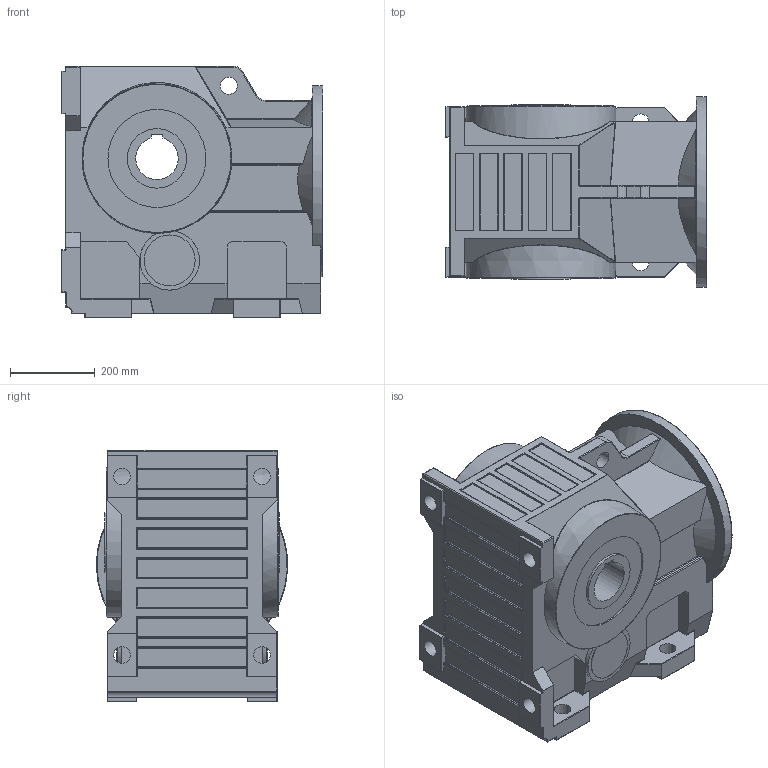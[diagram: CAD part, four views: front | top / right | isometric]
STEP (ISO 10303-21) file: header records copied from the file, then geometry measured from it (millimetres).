
FILE_DESCRIPTION((''),'2;1');
FILE_NAME('F:\PAWEŁ\ZLECENIA\2011 DualSystem\Przekładnie DK\001 Modele\DKAB120_\DK_120_STEP\DK_B_120.stp','2012-06-26T19:32:11',('admin'),(''),'Autodesk Inventor 2009','Autodesk Inventor 2009','');
FILE_SCHEMA(('AUTOMOTIVE_DESIGN { 1 0 10303 214 1 1 1 1 }'));
Length unit declared in the file: millimetre
Products named in the file (1): DK_B_120
Bounding box: 615 x 449.71 x 592 mm (x, y, z)
Volume: 105981617.4 mm3; surface area: 1977951.4 mm2
Topology: 1 solids, 1 shells, 578 faces, 1423 edges, 833 vertices
Faces by surface type: cylinder 248, plane 153, bspline 148, torus 17, sphere 8, cone 4
Full cylindrical faces by diameter (mm): 39 x4, 40 x1, 120 x1, 140 x1, 230.857 x1, 360 x1, 450 x1
Entity records: 22465 total; most frequent: CARTESIAN_POINT 9404, ORIENTED_EDGE 2728, DIRECTION 2678, EDGE_CURVE 1364, AXIS2_PLACEMENT_3D 991, VERTEX_POINT 827, VECTOR 696, LINE 696
